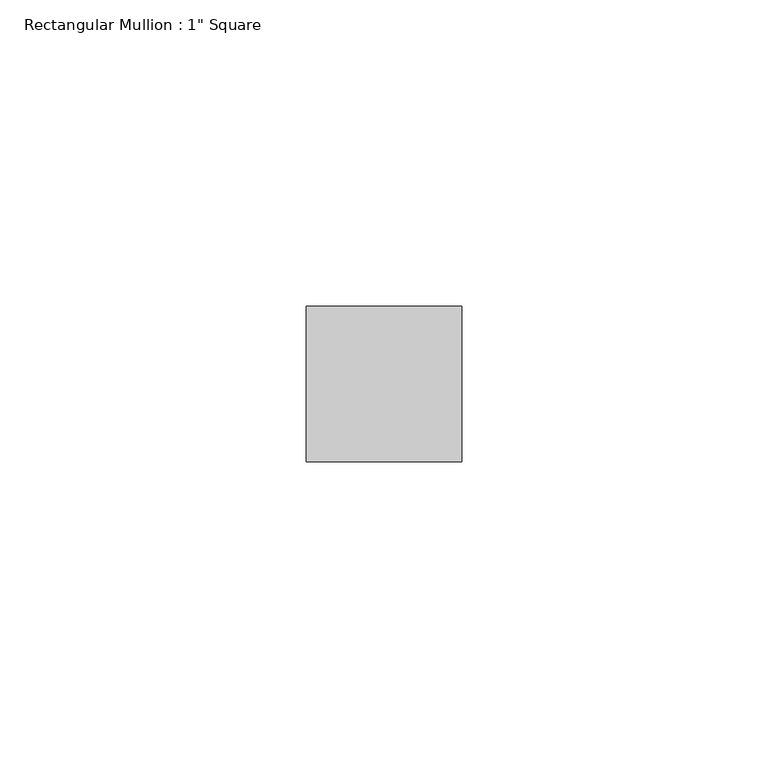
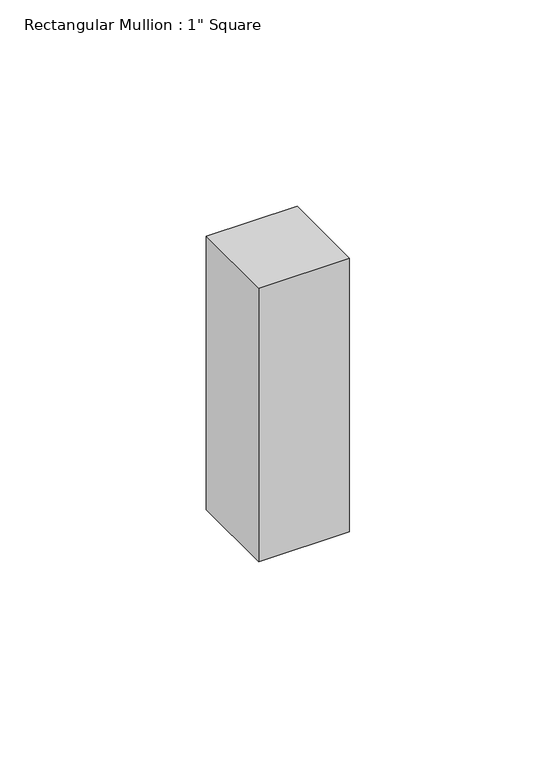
"""IFC4 building model written with IfcOpenShell, lengths in millimetres: member geometry."""

from ifc_helpers import new_model, si_unit, frame, origin, place, context, project, spatial, polyline, outline, extrude, source, transform, mapped, element, save


def member_eb56ffe8(model_context):
    return source(origin(), model_context, "Body", "SweptSolid", [
        extrude(outline(polyline([(12.7, 12.7), (12.7, -12.7), (-12.7, -12.7), (-12.7, 12.7), (12.7, 12.7)])), frame((0.0, 0.0, -80.8865763), z_axis=(0.0, 0.0, 1.0), x_axis=(1.0, 0.0, 0.0)), (0.0, 0.0, 1.0), 80.8865763),
    ])


if __name__ == "__main__":
    model = new_model("IFC4")
    model_context = context("Model", 3, world=origin())
    ifc_project = project(units=[si_unit("LENGTHUNIT", "METRE", prefix="MILLI")], contexts=[model_context])
    site = spatial("IfcSite", under=ifc_project)
    building = spatial("IfcBuilding", under=site)
    placement = place(None, origin())
    member_shape = member_eb56ffe8(model_context)
    element("IfcMember", 1, ObjectType="Rectangular Mullion : 1\" Square", at=placement, inside=building, context=model_context, shape_type="MappedRepresentation", body=[
        mapped(member_shape, transform((0.0, 0.0, 0.0), x_axis=(1.0, 0.0, 0.0), y_axis=(0.0, 1.0, 0.0), z_axis=(0.0, 0.0, 1.0))),
    ])
    save(model, "model.ifc")
